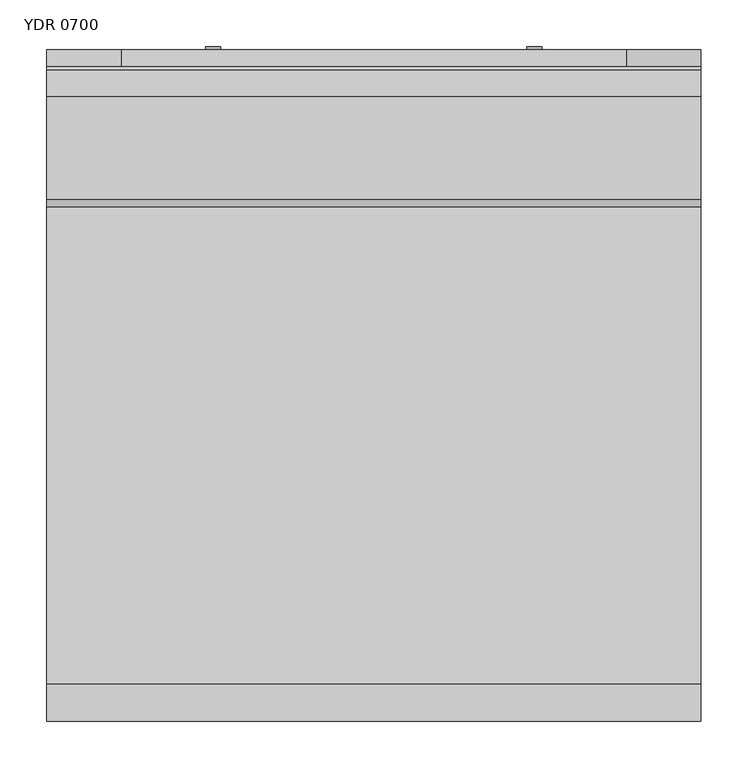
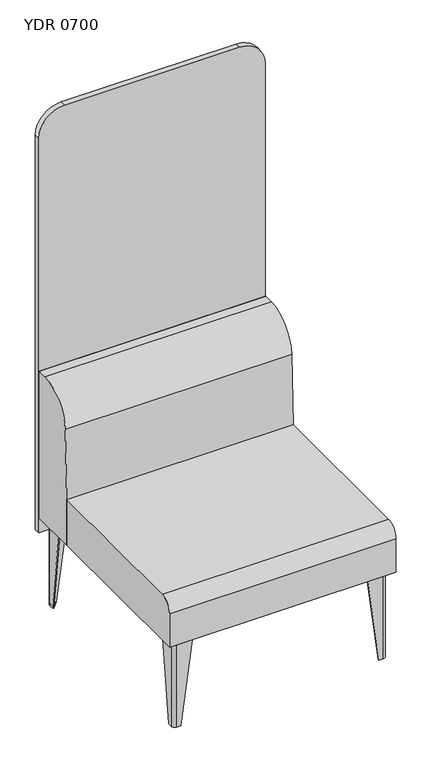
"""IFC4 building model written with IfcOpenShell, lengths in millimetres: furniture geometry, Mobiliário_Mobiliário de Escritório_LinhaYoung_Divisor Sofa Reto (Aço) - YDR_Marelli : YDR 0700."""

from ifc_helpers import new_model, si_unit, point, frame, frame_2d, origin, origin_with_axes, place, context, project, spatial, polyline, circle_curve, trimmed, segment, composite_curve, outline, extrude, source, transform, mapped, element, save
from ifc_brep_helpers import plane_surface, cylinder_surface, revolved_surface, advanced_brep


def ydr_0700_7234054d(model_context):
    return source(origin(), model_context, "Body", "SolidModel", [
        advanced_brep(
        [(20.0, 75.0, 280.0), (20.0, 25.0, 280.0), (30.0, 15.0, 280.0), (80.0, 15.0, 280.0), (80.0, 18.0, 280.0), (30.0, 18.0, 280.0), (23.0, 25.0, 280.0), (23.0, 75.0, 280.0), (20.0, 39.0, 0.0), (23.0, 39.0, 0.0), (23.0, 25.0, 0.0), (30.0, 18.0, 0.0), (44.0, 18.0, 0.0), (44.0, 15.0, 0.0), (30.0, 15.0, 0.0), (20.0, 25.0, 0.0)],
        [
            (0, 1),
            (1, 2, circle_curve(frame((30.0, 25.0, 280.0), z_axis=(0.0, 0.0, 1.0), x_axis=(0.0, -1.0, 0.0)), 10.0)),
            (2, 3),
            (3, 4),
            (4, 5),
            (5, 6, circle_curve(frame((30.0, 25.0, 280.0), z_axis=(0.0, 0.0, -1.0), x_axis=(-1.0, 0.0, 0.0)), 7.0)),
            (6, 7),
            (7, 0),
            (8, 9),
            (9, 10),
            (10, 11, circle_curve(frame((30.0, 25.0, 0.0), z_axis=(0.0, 0.0, 1.0), x_axis=(-1.0, 0.0, 0.0)), 7.0)),
            (11, 12),
            (12, 13),
            (13, 14),
            (14, 15, circle_curve(frame((30.0, 25.0, 0.0), z_axis=(0.0, 0.0, -1.0), x_axis=(0.0, -1.0, 0.0)), 10.0)),
            (15, 8),
            (15, 1),
            (0, 8),
            (14, 2),
            (13, 3),
            (12, 4),
            (11, 5),
            (10, 6),
            (9, 7),
        ],
        [
            plane_surface(frame((38.25, 33.25, 280.0), z_axis=(0.0, 0.0, 1.0), x_axis=(0.0, -1.0, 0.0))),
            plane_surface(frame((29.25, 24.25, 0.0), z_axis=(0.0, 0.0, -1.0), x_axis=(0.0, -1.0, 0.0))),
            plane_surface(frame((20.0, 32.0, 0.0), z_axis=(-1.0, 0.0, 0.0), x_axis=(0.0, -1.0, 0.0))),
            cylinder_surface(frame((30.0, 25.0, 0.0), z_axis=(0.0, 0.0, 1.0), x_axis=(0.0, -1.0, 0.0)), 10.0),
            plane_surface(frame((37.0, 15.0, 0.0), z_axis=(0.0, -1.0, 0.0), x_axis=(1.0, 0.0, 0.0))),
            plane_surface(frame((44.0, 16.5, 0.0), z_axis=(0.9918357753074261, 0.0, -0.12752174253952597), x_axis=(0.0, 1.0, 0.0))),
            plane_surface(frame((37.0, 18.0, 0.0), z_axis=(0.0, 1.0, 0.0), x_axis=(-1.0, 0.0, 0.0))),
            revolved_surface(polyline([(23.0, 25.0, 280.0), (23.0, 25.0, 0.0)]), (30.0, 25.0, 0.0), (0.0, 0.0, 1.0)),
            plane_surface(frame((23.0, 32.0, 0.0), z_axis=(1.0, 0.0, 0.0), x_axis=(0.0, 1.0, 0.0))),
            plane_surface(frame((21.5, 39.0, 0.0), z_axis=(0.0, 0.9918357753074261, -0.12752174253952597), x_axis=(-1.0, 0.0, 0.0))),
        ],
        [
            (0, [[1, 2, 3, 4, 5, 6, 7, 8]]),
            (1, [[9, 10, 11, 12, 13, 14, 15, 16]]),
            (2, [[-16, 17, -1, 18]]),
            (3, [[-15, 19, -2, -17]]),
            (4, [[-14, 20, -3, -19]]),
            (5, [[-13, 21, -4, -20]]),
            (6, [[-12, 22, -5, -21]]),
            (7, [[-11, 23, -6, -22]]),
            (8, [[-10, 24, -7, -23]]),
            (9, [[-9, -18, -8, -24]]),
        ],
    ),
        advanced_brep(
        [(680.0, 75.0, 280.0), (677.0, 75.0, 280.0), (677.0, 25.0, 280.0), (670.0, 18.0, 280.0), (620.0, 18.0, 280.0), (620.0, 15.0, 280.0), (670.0, 15.0, 280.0), (680.0, 25.0, 280.0), (680.0, 39.0, 0.0), (680.0, 25.0, 0.0), (670.0, 15.0, 0.0), (656.0, 15.0, 0.0), (656.0, 18.0, 0.0), (670.0, 18.0, 0.0), (677.0, 25.0, 0.0), (677.0, 39.0, 0.0)],
        [
            (0, 1),
            (1, 2),
            (2, 3, circle_curve(frame((670.0, 25.0, 280.0), z_axis=(0.0, 0.0, -1.0), x_axis=(0.0, -1.0, 0.0)), 7.0)),
            (3, 4),
            (4, 5),
            (5, 6),
            (6, 7, circle_curve(frame((670.0, 25.0, 280.0), z_axis=(0.0, 0.0, 1.0), x_axis=(1.0, 0.0, 0.0)), 10.0)),
            (7, 0),
            (8, 9),
            (9, 10, circle_curve(frame((670.0, 25.0, 0.0), z_axis=(0.0, 0.0, -1.0), x_axis=(1.0, 0.0, 0.0)), 10.0)),
            (10, 11),
            (11, 12),
            (12, 13),
            (13, 14, circle_curve(frame((670.0, 25.0, 0.0), z_axis=(0.0, 0.0, 1.0), x_axis=(0.0, -1.0, 0.0)), 7.0)),
            (14, 15),
            (15, 8),
            (8, 0),
            (7, 9),
            (6, 10),
            (5, 11),
            (4, 12),
            (3, 13),
            (2, 14),
            (1, 15),
        ],
        [
            plane_surface(frame((661.75, 33.25, 280.0), z_axis=(0.0, 0.0, 1.0), x_axis=(-1.0, 0.0, 0.0))),
            plane_surface(frame((670.75, 24.25, 0.0), z_axis=(0.0, 0.0, -1.0), x_axis=(-1.0, 0.0, 0.0))),
            plane_surface(frame((680.0, 32.0, 0.0), z_axis=(1.0, 0.0, 0.0), x_axis=(0.0, 1.0, 0.0))),
            cylinder_surface(frame((670.0, 25.0, 0.0), z_axis=(0.0, 0.0, 1.0), x_axis=(1.0, 0.0, 0.0)), 10.0),
            plane_surface(frame((663.0, 15.0, 0.0), z_axis=(0.0, -1.0, 0.0), x_axis=(1.0, 0.0, 0.0))),
            plane_surface(frame((656.0, 16.5, 0.0), z_axis=(-0.9918357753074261, 0.0, -0.127521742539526), x_axis=(0.0, -1.0, 0.0))),
            plane_surface(frame((663.0, 18.0, 0.0), z_axis=(0.0, 1.0, 0.0), x_axis=(-1.0, 0.0, 0.0))),
            revolved_surface(polyline([(670.0, 18.0, 280.0), (670.0, 18.0, 0.0)]), (670.0, 25.0, 0.0), (0.0, 0.0, 1.0)),
            plane_surface(frame((677.0, 32.0, 0.0), z_axis=(-1.0, 0.0, 0.0), x_axis=(0.0, -1.0, 0.0))),
            plane_surface(frame((678.5, 39.0, 0.0), z_axis=(0.0, 0.9918357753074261, -0.12752174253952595), x_axis=(-1.0, 0.0, 0.0))),
        ],
        [
            (0, [[1, 2, 3, 4, 5, 6, 7, 8]]),
            (1, [[9, 10, 11, 12, 13, 14, 15, 16]]),
            (2, [[-9, 17, -8, 18]]),
            (3, [[-10, -18, -7, 19]]),
            (4, [[-11, -19, -6, 20]]),
            (5, [[-12, -20, -5, 21]]),
            (6, [[-13, -21, -4, 22]]),
            (7, [[-14, -22, -3, 23]]),
            (8, [[-15, -23, -2, 24]]),
            (9, [[-16, -24, -1, -17]]),
        ],
    ),
        advanced_brep(
        [(20.0, 625.0, 280.0), (23.0, 625.0, 280.0), (23.0, 675.0, 280.0), (30.0, 682.0, 280.0), (80.0, 682.0, 280.0), (80.0, 685.0, 280.0), (30.0, 685.0, 280.0), (20.0, 675.0, 280.0), (20.0, 661.0, 0.0), (20.0, 675.0, 0.0), (30.0, 685.0, 0.0), (44.0, 685.0, 0.0), (44.0, 682.0, 0.0), (30.0, 682.0, 0.0), (23.0, 675.0, 0.0), (23.0, 661.0, 0.0)],
        [
            (0, 1),
            (1, 2),
            (2, 3, circle_curve(frame((30.0, 675.0, 280.0), z_axis=(0.0, 0.0, -1.0), x_axis=(0.0, 1.0, 0.0)), 7.0)),
            (3, 4),
            (4, 5),
            (5, 6),
            (6, 7, circle_curve(frame((30.0, 675.0, 280.0), z_axis=(0.0, 0.0, 1.0), x_axis=(-1.0, 0.0, 0.0)), 10.0)),
            (7, 0),
            (8, 9),
            (9, 10, circle_curve(frame((30.0, 675.0, 0.0), z_axis=(0.0, 0.0, -1.0), x_axis=(-1.0, 0.0, 0.0)), 10.0)),
            (10, 11),
            (11, 12),
            (12, 13),
            (13, 14, circle_curve(frame((30.0, 675.0, 0.0), z_axis=(0.0, 0.0, 1.0), x_axis=(0.0, 1.0, 0.0)), 7.0)),
            (14, 15),
            (15, 8),
            (8, 0),
            (7, 9),
            (6, 10),
            (5, 11),
            (4, 12),
            (3, 13),
            (2, 14),
            (1, 15),
        ],
        [
            plane_surface(frame((38.25, 666.75, 280.0), z_axis=(0.0, 0.0, 1.0), x_axis=(1.0, 0.0, 0.0))),
            plane_surface(frame((29.25, 675.75, 0.0), z_axis=(0.0, 0.0, -1.0), x_axis=(1.0, 0.0, 0.0))),
            plane_surface(frame((20.0, 668.0, 0.0), z_axis=(-1.0, 0.0, 0.0), x_axis=(0.0, -1.0, 0.0))),
            cylinder_surface(frame((30.0, 675.0, 0.0), z_axis=(0.0, 0.0, 1.0), x_axis=(-1.0, 0.0, 0.0)), 10.0),
            plane_surface(frame((37.0, 685.0, 0.0), z_axis=(0.0, 1.0, 0.0), x_axis=(-1.0, 0.0, 0.0))),
            plane_surface(frame((44.0, 683.5, 0.0), z_axis=(0.9918357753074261, 0.0, -0.12752174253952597), x_axis=(0.0, 1.0, 0.0))),
            plane_surface(frame((37.0, 682.0, 0.0), z_axis=(0.0, -1.0, 0.0), x_axis=(1.0, 0.0, 0.0))),
            revolved_surface(polyline([(30.0, 682.0, 280.0), (30.0, 682.0, 0.0)]), (30.0, 675.0, 0.0), (0.0, 0.0, 1.0)),
            plane_surface(frame((23.0, 668.0, 0.0), z_axis=(1.0, 0.0, 0.0), x_axis=(0.0, 1.0, 0.0))),
            plane_surface(frame((21.5, 661.0, 0.0), z_axis=(0.0, -0.9918357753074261, -0.127521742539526), x_axis=(1.0, 0.0, 0.0))),
        ],
        [
            (0, [[1, 2, 3, 4, 5, 6, 7, 8]]),
            (1, [[9, 10, 11, 12, 13, 14, 15, 16]]),
            (2, [[-9, 17, -8, 18]]),
            (3, [[-10, -18, -7, 19]]),
            (4, [[-11, -19, -6, 20]]),
            (5, [[-12, -20, -5, 21]]),
            (6, [[-13, -21, -4, 22]]),
            (7, [[-14, -22, -3, 23]]),
            (8, [[-15, -23, -2, 24]]),
            (9, [[-16, -24, -1, -17]]),
        ],
    ),
        advanced_brep(
        [(680.0, 625.0, 280.0), (680.0, 675.0, 280.0), (670.0, 685.0, 280.0), (620.0, 685.0, 280.0), (620.0, 682.0, 280.0), (670.0, 682.0, 280.0), (677.0, 675.0, 280.0), (677.0, 625.0, 280.0), (680.0, 661.0, 0.0), (677.0, 661.0, 0.0), (677.0, 675.0, 0.0), (670.0, 682.0, 0.0), (656.0, 682.0, 0.0), (656.0, 685.0, 0.0), (670.0, 685.0, 0.0), (680.0, 675.0, 0.0)],
        [
            (0, 1),
            (1, 2, circle_curve(frame((670.0, 675.0, 280.0), z_axis=(0.0, 0.0, 1.0), x_axis=(0.0, 1.0, 0.0)), 10.0)),
            (2, 3),
            (3, 4),
            (4, 5),
            (5, 6, circle_curve(frame((670.0, 675.0, 280.0), z_axis=(0.0, 0.0, -1.0), x_axis=(1.0, 0.0, 0.0)), 7.0)),
            (6, 7),
            (7, 0),
            (8, 9),
            (9, 10),
            (10, 11, circle_curve(frame((670.0, 675.0, 0.0), z_axis=(0.0, 0.0, 1.0), x_axis=(1.0, 0.0, 0.0)), 7.0)),
            (11, 12),
            (12, 13),
            (13, 14),
            (14, 15, circle_curve(frame((670.0, 675.0, 0.0), z_axis=(0.0, 0.0, -1.0), x_axis=(0.0, 1.0, 0.0)), 10.0)),
            (15, 8),
            (15, 1),
            (0, 8),
            (14, 2),
            (13, 3),
            (12, 4),
            (11, 5),
            (10, 6),
            (9, 7),
        ],
        [
            plane_surface(frame((661.75, 666.75, 280.0), z_axis=(0.0, 0.0, 1.0), x_axis=(0.0, 1.0, 0.0))),
            plane_surface(frame((670.75, 675.75, 0.0), z_axis=(0.0, 0.0, -1.0), x_axis=(0.0, 1.0, 0.0))),
            plane_surface(frame((680.0, 668.0, 0.0), z_axis=(1.0, 0.0, 0.0), x_axis=(0.0, 1.0, 0.0))),
            cylinder_surface(frame((670.0, 675.0, 0.0), z_axis=(0.0, 0.0, 1.0), x_axis=(0.0, 1.0, 0.0)), 10.0),
            plane_surface(frame((663.0, 685.0, 0.0), z_axis=(0.0, 1.0, 0.0), x_axis=(-1.0, 0.0, 0.0))),
            plane_surface(frame((656.0, 683.5, 0.0), z_axis=(-0.9918357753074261, 0.0, -0.127521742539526), x_axis=(0.0, -1.0, 0.0))),
            plane_surface(frame((663.0, 682.0, 0.0), z_axis=(0.0, -1.0, 0.0), x_axis=(1.0, 0.0, 0.0))),
            revolved_surface(polyline([(677.0, 675.0, 280.0), (677.0, 675.0, 0.0)]), (670.0, 675.0, 0.0), (0.0, 0.0, 1.0)),
            plane_surface(frame((677.0, 668.0, 0.0), z_axis=(-1.0, 0.0, 0.0), x_axis=(0.0, -1.0, 0.0))),
            plane_surface(frame((678.5, 661.0, 0.0), z_axis=(0.0, -0.9918357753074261, -0.127521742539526), x_axis=(1.0, 0.0, 0.0))),
        ],
        [
            (0, [[1, 2, 3, 4, 5, 6, 7, 8]]),
            (1, [[9, 10, 11, 12, 13, 14, 15, 16]]),
            (2, [[-16, 17, -1, 18]]),
            (3, [[-15, 19, -2, -17]]),
            (4, [[-14, 20, -3, -19]]),
            (5, [[-13, 21, -4, -20]]),
            (6, [[-12, 22, -5, -21]]),
            (7, [[-11, 23, -6, -22]]),
            (8, [[-10, 24, -7, -23]]),
            (9, [[-9, -18, -8, -24]]),
        ],
    ),
        extrude(outline(composite_curve([segment(polyline([(23.0, 39.0), (44.0, 18.0), (30.0, 18.0)]), True, "CONTINUOUS"), segment(trimmed(circle_curve(frame_2d((30.0, 25.0)), 7.0), [point((30.0, 18.0))], [point((23.0, 25.0))], False, "CARTESIAN"), True, "CONTINUOUS"), segment(polyline([(23.0, 25.0), (23.0, 39.0)]), True, "CONTINUOUS")], self_intersect=False)), origin_with_axes(), (0.0, 0.0, 1.0), 1.0),
        extrude(outline(composite_curve([segment(polyline([(23.0, 661.0), (23.0, 675.0)]), True, "CONTINUOUS"), segment(trimmed(circle_curve(frame_2d((30.0, 675.0)), 7.0), [point((23.0, 675.0))], [point((30.0, 682.0))], False, "CARTESIAN"), True, "CONTINUOUS"), segment(polyline([(30.0, 682.0), (44.0, 682.0), (23.0, 661.0)]), True, "CONTINUOUS")], self_intersect=False)), origin_with_axes(), (0.0, 0.0, 1.0), 1.0),
        extrude(outline(composite_curve([segment(polyline([(677.0, 39.0), (677.0, 25.0)]), True, "CONTINUOUS"), segment(trimmed(circle_curve(frame_2d((670.0, 25.0)), 7.0), [point((677.0, 25.0))], [point((670.0, 18.0))], False, "CARTESIAN"), True, "CONTINUOUS"), segment(polyline([(670.0, 18.0), (656.0, 18.0), (677.0, 39.0)]), True, "CONTINUOUS")], self_intersect=False)), origin_with_axes(), (0.0, 0.0, 1.0), 1.0),
        extrude(outline(composite_curve([segment(polyline([(677.0, 661.0), (656.0, 682.0), (670.0, 682.0)]), True, "CONTINUOUS"), segment(trimmed(circle_curve(frame_2d((670.0, 675.0)), 7.0), [point((670.0, 682.0))], [point((677.0, 675.0))], False, "CARTESIAN"), True, "CONTINUOUS"), segment(polyline([(677.0, 675.0), (677.0, 661.0)]), True, "CONTINUOUS")], self_intersect=False)), origin_with_axes(), (0.0, 0.0, 1.0), 1.0),
        extrude(outline(composite_curve([segment(trimmed(circle_curve(frame_2d((30.0, 25.0)), 7.0), [point((30.0, 18.0))], [point((23.0, 25.0))], False, "CARTESIAN"), True, "CONTINUOUS"), segment(polyline([(23.0, 25.0), (23.0, 93.0)]), True, "CONTINUOUS"), segment(trimmed(circle_curve(frame_2d((28.0, 93.0)), 5.0), [point((23.0, 93.0))], [point((28.0, 98.0))], False, "CARTESIAN"), True, "CONTINUOUS"), segment(polyline([(28.0, 98.0), (51.9545624, 98.0)]), True, "CONTINUOUS"), segment(trimmed(circle_curve(frame_2d((52.6241051, 89.931755)), 8.0959783), [point((51.9545624, 98.0))], [point((58.520382, 95.479618))], False, "CARTESIAN"), True, "CONTINUOUS"), segment(polyline([(58.520382, 95.479618), (100.479618, 53.520382)]), True, "CONTINUOUS"), segment(trimmed(circle_curve(frame_2d((94.931755, 47.6241051)), 8.0959783), [point((100.479618, 53.520382))], [point((103.0, 46.9545624))], False, "CARTESIAN"), True, "CONTINUOUS"), segment(polyline([(103.0, 46.9545624), (103.0, 23.0)]), True, "CONTINUOUS"), segment(trimmed(circle_curve(frame_2d((98.0, 23.0)), 5.0), [point((103.0, 23.0))], [point((98.0, 18.0))], False, "CARTESIAN"), True, "CONTINUOUS"), segment(polyline([(98.0, 18.0), (30.0, 18.0)]), True, "CONTINUOUS")], self_intersect=False)), frame((0.0, 0.0, 279.0), z_axis=(0.0, 0.0, 1.0), x_axis=(1.0, 0.0, 0.0)), (0.0, 0.0, 1.0), 1.0),
        extrude(outline(composite_curve([segment(polyline([(30.0, 682.0), (98.0, 682.0)]), True, "CONTINUOUS"), segment(trimmed(circle_curve(frame_2d((98.0, 677.0)), 5.0), [point((98.0, 682.0))], [point((103.0, 677.0))], False, "CARTESIAN"), True, "CONTINUOUS"), segment(polyline([(103.0, 677.0), (103.0, 653.0454376)]), True, "CONTINUOUS"), segment(trimmed(circle_curve(frame_2d((94.931755, 652.3758949)), 8.0959783), [point((103.0, 653.0454376))], [point((100.479618, 646.479618))], False, "CARTESIAN"), True, "CONTINUOUS"), segment(polyline([(100.479618, 646.479618), (58.520382, 604.520382)]), True, "CONTINUOUS"), segment(trimmed(circle_curve(frame_2d((52.6241051, 610.068245)), 8.0959783), [point((58.520382, 604.520382))], [point((51.9545624, 602.0))], False, "CARTESIAN"), True, "CONTINUOUS"), segment(polyline([(51.9545624, 602.0), (28.0, 602.0)]), True, "CONTINUOUS"), segment(trimmed(circle_curve(frame_2d((28.0, 607.0)), 5.0), [point((28.0, 602.0))], [point((23.0, 607.0))], False, "CARTESIAN"), True, "CONTINUOUS"), segment(polyline([(23.0, 607.0), (23.0, 675.0)]), True, "CONTINUOUS"), segment(trimmed(circle_curve(frame_2d((30.0, 675.0)), 7.0), [point((23.0, 675.0))], [point((30.0, 682.0))], False, "CARTESIAN"), True, "CONTINUOUS")], self_intersect=False)), frame((0.0, 0.0, 279.0), z_axis=(0.0, 0.0, 1.0), x_axis=(1.0, 0.0, 0.0)), (0.0, 0.0, 1.0), 1.0),
        extrude(outline(composite_curve([segment(polyline([(670.0, 18.0), (602.0, 18.0)]), True, "CONTINUOUS"), segment(trimmed(circle_curve(frame_2d((602.0, 23.0)), 5.0), [point((602.0, 18.0))], [point((597.0, 23.0))], False, "CARTESIAN"), True, "CONTINUOUS"), segment(polyline([(597.0, 23.0), (597.0, 46.9545624)]), True, "CONTINUOUS"), segment(trimmed(circle_curve(frame_2d((605.068245, 47.6241051)), 8.0959783), [point((597.0, 46.9545624))], [point((599.520382, 53.520382))], False, "CARTESIAN"), True, "CONTINUOUS"), segment(polyline([(599.520382, 53.520382), (641.479618, 95.479618)]), True, "CONTINUOUS"), segment(trimmed(circle_curve(frame_2d((647.3758949, 89.931755)), 8.0959783), [point((641.479618, 95.479618))], [point((648.0454376, 98.0))], False, "CARTESIAN"), True, "CONTINUOUS"), segment(polyline([(648.0454376, 98.0), (672.0, 98.0)]), True, "CONTINUOUS"), segment(trimmed(circle_curve(frame_2d((672.0, 93.0)), 5.0), [point((672.0, 98.0))], [point((677.0, 93.0))], False, "CARTESIAN"), True, "CONTINUOUS"), segment(polyline([(677.0, 93.0), (677.0, 25.0)]), True, "CONTINUOUS"), segment(trimmed(circle_curve(frame_2d((670.0, 25.0)), 7.0), [point((677.0, 25.0))], [point((670.0, 18.0))], False, "CARTESIAN"), True, "CONTINUOUS")], self_intersect=False)), frame((0.0, 0.0, 279.0), z_axis=(0.0, 0.0, 1.0), x_axis=(1.0, 0.0, 0.0)), (0.0, 0.0, 1.0), 1.0),
        extrude(outline(composite_curve([segment(trimmed(circle_curve(frame_2d((670.0, 675.0)), 7.0), [point((670.0, 682.0))], [point((677.0, 675.0))], False, "CARTESIAN"), True, "CONTINUOUS"), segment(polyline([(677.0, 675.0), (677.0, 607.0)]), True, "CONTINUOUS"), segment(trimmed(circle_curve(frame_2d((672.0, 607.0)), 5.0), [point((677.0, 607.0))], [point((672.0, 602.0))], False, "CARTESIAN"), True, "CONTINUOUS"), segment(polyline([(672.0, 602.0), (648.0454376, 602.0)]), True, "CONTINUOUS"), segment(trimmed(circle_curve(frame_2d((647.3758949, 610.068245)), 8.0959783), [point((648.0454376, 602.0))], [point((641.479618, 604.520382))], False, "CARTESIAN"), True, "CONTINUOUS"), segment(polyline([(641.479618, 604.520382), (599.520382, 646.479618)]), True, "CONTINUOUS"), segment(trimmed(circle_curve(frame_2d((605.068245, 652.3758949)), 8.0959783), [point((599.520382, 646.479618))], [point((597.0, 653.0454376))], False, "CARTESIAN"), True, "CONTINUOUS"), segment(polyline([(597.0, 653.0454376), (597.0, 677.0)]), True, "CONTINUOUS"), segment(trimmed(circle_curve(frame_2d((602.0, 677.0)), 5.0), [point((597.0, 677.0))], [point((602.0, 682.0))], False, "CARTESIAN"), True, "CONTINUOUS"), segment(polyline([(602.0, 682.0), (670.0, 682.0)]), True, "CONTINUOUS")], self_intersect=False)), frame((0.0, 0.0, 279.0), z_axis=(0.0, 0.0, 1.0), x_axis=(1.0, 0.0, 0.0)), (0.0, 0.0, 1.0), 1.0),
        extrude(outline(composite_curve([segment(polyline([(700.0, 756.802426), (700.0, 280.0), (550.0, 280.0), (550.0, 430.0), (558.2568376, 654.223651)]), True, "CONTINUOUS"), segment(trimmed(circle_curve(frame_2d((668.0, 650.1824561)), 109.8175439), [point((558.2568376, 654.223651))], [point((668.0, 760.0))], False, "CARTESIAN"), True, "CONTINUOUS"), segment(polyline([(668.0, 760.0), (696.802426, 760.0)]), True, "CONTINUOUS"), segment(trimmed(circle_curve(frame_2d((696.802426, 756.802426)), 3.197574), [point((696.802426, 760.0))], [point((700.0, 756.802426))], False, "CARTESIAN"), True, "CONTINUOUS")], self_intersect=False)), frame((0.0, 0.0, 0.0), z_axis=(1.0, 0.0, 0.0), x_axis=(0.0, 1.0, 0.0)), (0.0, 0.0, 1.0), 700.0),
        extrude(outline(composite_curve([segment(polyline([(550.0, 430.0), (550.0, 280.0), (0.0, 280.0), (0.0, 390.0)]), True, "CONTINUOUS"), segment(trimmed(circle_curve(frame_2d((40.0, 390.0)), 40.0), [point((0.0, 390.0))], [point((40.0, 430.0))], False, "CARTESIAN"), True, "CONTINUOUS"), segment(polyline([(40.0, 430.0), (550.0, 430.0)]), True, "CONTINUOUS")], self_intersect=False)), frame((0.0, 0.0, 0.0), z_axis=(1.0, 0.0, 0.0), x_axis=(0.0, 1.0, 0.0)), (0.0, 0.0, 1.0), 700.0),
        extrude(outline(composite_curve([segment(polyline([(1600.0, 620.0), (1600.0, 80.0)]), True, "CONTINUOUS"), segment(trimmed(circle_curve(frame_2d((1520.0, 80.0)), 80.0), [point((1600.0, 80.0))], [point((1520.0, 0.0))], False, "CARTESIAN"), True, "CONTINUOUS"), segment(polyline([(1520.0, 0.0), (230.0, 0.0), (230.0, 700.0), (1520.0, 700.0)]), True, "CONTINUOUS"), segment(trimmed(circle_curve(frame_2d((1520.0, 620.0)), 80.0), [point((1520.0, 700.0))], [point((1600.0, 620.0))], False, "CARTESIAN"), True, "CONTINUOUS")], self_intersect=False)), frame((0.0, 700.0, 0.0), z_axis=(0.0, 1.0, 0.0), x_axis=(0.0, 0.0, 1.0)), (0.0, 0.0, 1.0), 18.0),
        extrude(outline(composite_curve([segment(trimmed(circle_curve(frame_2d((470.0, 522.0)), 8.0), [point((470.0, 530.0))], [point((470.0, 514.0))], False, "CARTESIAN"), True, "CONTINUOUS"), segment(trimmed(circle_curve(frame_2d((470.0, 522.0)), 8.0), [point((470.0, 514.0))], [point((470.0, 530.0))], False, "CARTESIAN"), True, "CONTINUOUS")], self_intersect=False)), frame((0.0, 718.0, 0.0), z_axis=(0.0, 1.0, 0.0), x_axis=(0.0, 0.0, 1.0)), (0.0, 0.0, 1.0), 3.0),
        extrude(outline(composite_curve([segment(trimmed(circle_curve(frame_2d((470.0, 178.0)), 8.0), [point((470.0, 186.0))], [point((470.0, 170.0))], False, "CARTESIAN"), True, "CONTINUOUS"), segment(trimmed(circle_curve(frame_2d((470.0, 178.0)), 8.0), [point((470.0, 170.0))], [point((470.0, 186.0))], False, "CARTESIAN"), True, "CONTINUOUS")], self_intersect=False)), frame((0.0, 718.0, 0.0), z_axis=(0.0, 1.0, 0.0), x_axis=(0.0, 0.0, 1.0)), (0.0, 0.0, 1.0), 3.0),
    ])


if __name__ == "__main__":
    model = new_model("IFC4")
    model_context = context("Model", 3, world=origin())
    ifc_project = project(units=[si_unit("LENGTHUNIT", "METRE", prefix="MILLI")], contexts=[model_context])
    site = spatial("IfcSite", under=ifc_project)
    building = spatial("IfcBuilding", under=site)
    placement = place(None, origin())
    ydr_0700_shape = ydr_0700_7234054d(model_context)
    element("IfcFurniture", 1, ObjectType="Mobiliário_Mobiliário de Escritório_LinhaYoung_Divisor Sofa Reto (Aço) - YDR_Marelli : YDR 0700", at=placement, inside=building, context=model_context, shape_type="MappedRepresentation", body=[
        mapped(ydr_0700_shape, transform((0.0, 0.0, 0.0), x_axis=(1.0, 0.0, 0.0), y_axis=(0.0, 1.0, 0.0), z_axis=(0.0, 0.0, 1.0))),
    ])
    save(model, "model.ifc")
